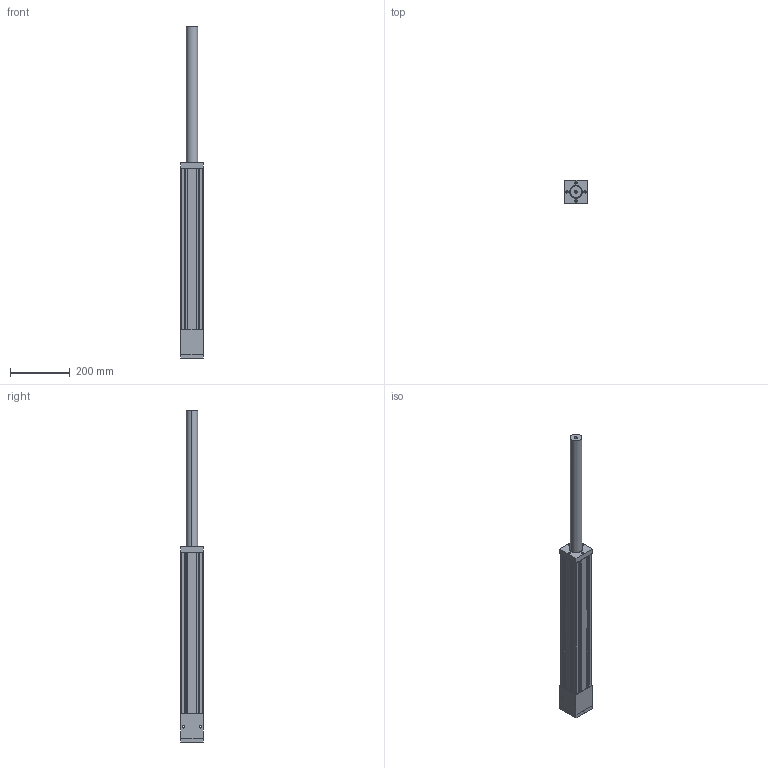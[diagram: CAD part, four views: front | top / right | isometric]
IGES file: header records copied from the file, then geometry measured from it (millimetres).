
Start section: SolidWorks IGES file using analytic representation for surfaces
Global section: file name: C:\Users\render\Documents\CAD Files\Integrated-Actuators\SS-Series\SS-18\SS18.IGS; native system: SolidWorks 2009; preprocessor: SolidWorks 2009; author: render; date: 100602.150208; units: millimetre
Bounding box: 76.2 x 76.2 x 1111.25 mm (x, y, z)
Surface area: 583492.8 mm2 (no closed solid volume)
Topology: 0 solids, 0 shells, 309 faces, 5024 edges, 5006 vertices
Faces by surface type: revolution 194, bspline 115
